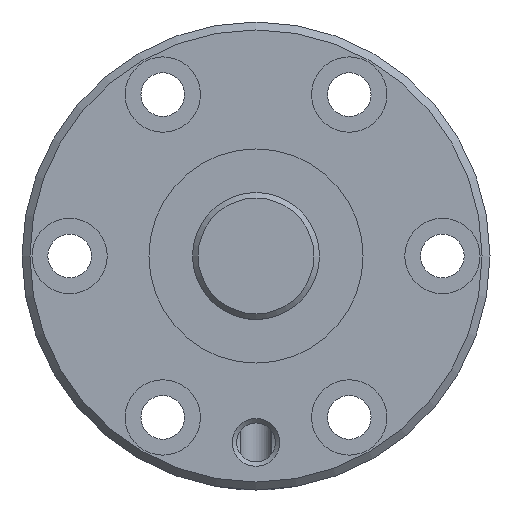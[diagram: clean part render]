
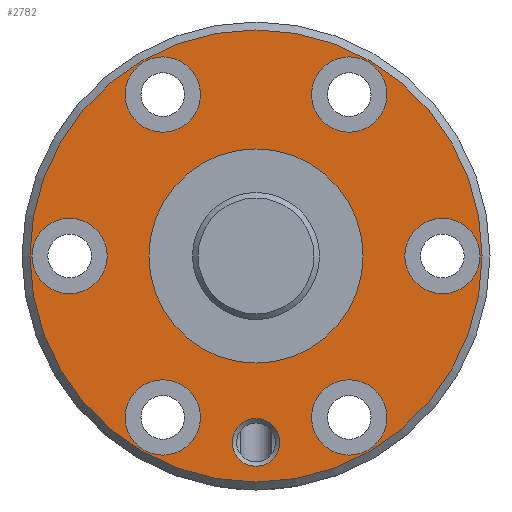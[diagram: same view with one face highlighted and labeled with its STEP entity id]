
A CAD part, left-side view. The second image highlights one B-rep face of the part: STEP entity #2782.
In plain terms, the highlighted planar face has unit normal (-1, 0, 0).
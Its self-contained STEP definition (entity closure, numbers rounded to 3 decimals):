
#762=ORIENTED_EDGE('',*,*,#1529,.T.);
#763=ORIENTED_EDGE('',*,*,#1530,.T.);
#764=ORIENTED_EDGE('',*,*,#1531,.T.);
#765=ORIENTED_EDGE('',*,*,#1532,.T.);
#766=ORIENTED_EDGE('',*,*,#1533,.T.);
#767=ORIENTED_EDGE('',*,*,#1534,.T.);
#768=ORIENTED_EDGE('',*,*,#1535,.T.);
#769=ORIENTED_EDGE('',*,*,#1536,.T.);
#770=ORIENTED_EDGE('',*,*,#1528,.F.);
#1528=EDGE_CURVE('',#1910,#1910,#2094,.T.);
#1529=EDGE_CURVE('',#1911,#1911,#2095,.T.);
#1530=EDGE_CURVE('',#1912,#1912,#2096,.F.);
#1531=EDGE_CURVE('',#1913,#1913,#2097,.T.);
#1532=EDGE_CURVE('',#1914,#1914,#2098,.T.);
#1533=EDGE_CURVE('',#1915,#1915,#2099,.T.);
#1534=EDGE_CURVE('',#1916,#1916,#2100,.T.);
#1535=EDGE_CURVE('',#1917,#1917,#2101,.T.);
#1536=EDGE_CURVE('',#1918,#1918,#2102,.T.);
#1910=VERTEX_POINT('',#4449);
#1911=VERTEX_POINT('',#4452);
#1912=VERTEX_POINT('',#4454);
#1913=VERTEX_POINT('',#4456);
#1914=VERTEX_POINT('',#4458);
#1915=VERTEX_POINT('',#4460);
#1916=VERTEX_POINT('',#4462);
#1917=VERTEX_POINT('',#4464);
#1918=VERTEX_POINT('',#4466);
#2094=CIRCLE('',#3003,28.5);
#2095=CIRCLE('',#3005,13.5);
#2096=CIRCLE('',#3006,4.75);
#2097=CIRCLE('',#3007,3.);
#2098=CIRCLE('',#3008,4.75);
#2099=CIRCLE('',#3009,4.75);
#2100=CIRCLE('',#3010,4.75);
#2101=CIRCLE('',#3011,4.75);
#2102=CIRCLE('',#3012,4.75);
#2225=EDGE_LOOP('',(#762));
#2226=EDGE_LOOP('',(#763));
#2227=EDGE_LOOP('',(#764));
#2228=EDGE_LOOP('',(#765));
#2229=EDGE_LOOP('',(#766));
#2230=EDGE_LOOP('',(#767));
#2231=EDGE_LOOP('',(#768));
#2232=EDGE_LOOP('',(#769));
#2233=EDGE_LOOP('',(#770));
#2457=FACE_BOUND('',#2225,.T.);
#2458=FACE_BOUND('',#2226,.T.);
#2459=FACE_BOUND('',#2227,.T.);
#2460=FACE_BOUND('',#2228,.T.);
#2461=FACE_BOUND('',#2229,.T.);
#2462=FACE_BOUND('',#2230,.T.);
#2463=FACE_BOUND('',#2231,.T.);
#2464=FACE_BOUND('',#2232,.T.);
#2465=FACE_BOUND('',#2233,.T.);
#2666=PLANE('',#3004);
#2782=ADVANCED_FACE('',(#2457,#2458,#2459,#2460,#2461,#2462,#2463,#2464,
#2465),#2666,.T.);
#3003=AXIS2_PLACEMENT_3D('',#4448,#3437,#3438);
#3004=AXIS2_PLACEMENT_3D('',#4450,#3439,#3440);
#3005=AXIS2_PLACEMENT_3D('',#4451,#3441,#3442);
#3006=AXIS2_PLACEMENT_3D('',#4453,#3443,#3444);
#3007=AXIS2_PLACEMENT_3D('',#4455,#3445,#3446);
#3008=AXIS2_PLACEMENT_3D('',#4457,#3447,#3448);
#3009=AXIS2_PLACEMENT_3D('',#4459,#3449,#3450);
#3010=AXIS2_PLACEMENT_3D('',#4461,#3451,#3452);
#3011=AXIS2_PLACEMENT_3D('',#4463,#3453,#3454);
#3012=AXIS2_PLACEMENT_3D('',#4465,#3455,#3456);
#3437=DIRECTION('',(1.,0.,0.));
#3438=DIRECTION('',(0.,0.,-1.));
#3439=DIRECTION('',(-1.,0.,0.));
#3440=DIRECTION('',(0.,0.,1.));
#3441=DIRECTION('',(1.,0.,0.));
#3442=DIRECTION('',(0.,0.,-1.));
#3443=DIRECTION('',(-1.,0.,0.));
#3444=DIRECTION('',(0.,0.,1.));
#3445=DIRECTION('',(1.,0.,0.));
#3446=DIRECTION('',(0.,0.,-1.));
#3447=DIRECTION('',(1.,0.,0.));
#3448=DIRECTION('',(0.,0.,-1.));
#3449=DIRECTION('',(1.,0.,0.));
#3450=DIRECTION('',(0.,0.,-1.));
#3451=DIRECTION('',(1.,0.,0.));
#3452=DIRECTION('',(0.,0.,-1.));
#3453=DIRECTION('',(1.,0.,0.));
#3454=DIRECTION('',(0.,0.,-1.));
#3455=DIRECTION('',(1.,0.,0.));
#3456=DIRECTION('',(0.,0.,-1.));
#4448=CARTESIAN_POINT('',(0.,0.,0.));
#4449=CARTESIAN_POINT('',(0.,0.,-28.5));
#4450=CARTESIAN_POINT('',(0.,28.5,0.));
#4451=CARTESIAN_POINT('',(0.,0.,0.));
#4452=CARTESIAN_POINT('',(0.,0.,-13.5));
#4453=CARTESIAN_POINT('',(0.,23.5,0.));
#4454=CARTESIAN_POINT('',(0.,23.5,4.75));
#4455=CARTESIAN_POINT('',(0.,0.,-23.5));
#4456=CARTESIAN_POINT('',(0.,0.,-26.5));
#4457=CARTESIAN_POINT('',(0.,11.75,20.352));
#4458=CARTESIAN_POINT('',(0.,11.75,15.602));
#4459=CARTESIAN_POINT('',(0.,-11.75,-20.352));
#4460=CARTESIAN_POINT('',(0.,-11.75,-25.102));
#4461=CARTESIAN_POINT('',(0.,-11.75,20.352));
#4462=CARTESIAN_POINT('',(0.,-11.75,15.602));
#4463=CARTESIAN_POINT('',(0.,11.75,-20.352));
#4464=CARTESIAN_POINT('',(0.,11.75,-25.102));
#4465=CARTESIAN_POINT('',(0.,-23.5,0.));
#4466=CARTESIAN_POINT('',(0.,-23.5,-4.75));
